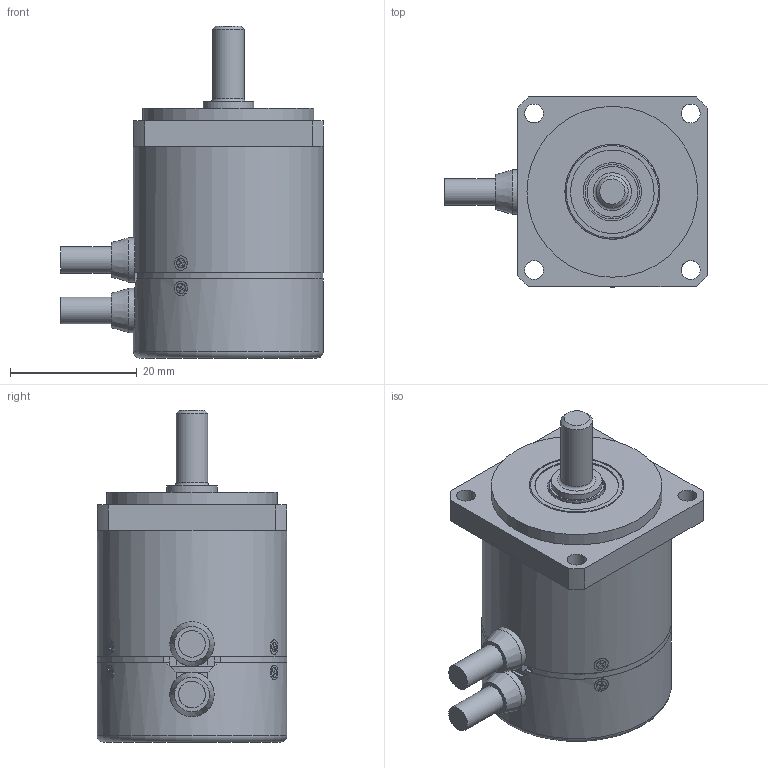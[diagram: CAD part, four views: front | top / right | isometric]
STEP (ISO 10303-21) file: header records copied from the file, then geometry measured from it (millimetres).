
FILE_DESCRIPTION(('STEP AP214'),'1');
FILE_NAME('MDS-3012.stp','2017-10-10T07:15:37',(' '),(' '),'Spatial InterOp 3D',' ',' ');
FILE_SCHEMA(('automotive_design'));
Length unit declared in the file: millimetre
Products named in the file (11): ケーブル; タッピングネジ M1.4x2.2; サラコネジ M1.4x2.5; ｱﾝｷﾞｭﾗﾍﾞｱﾘﾝｸﾞ MTA06-15; ブッシュ; カバー_S; ベース; シャフト_S3012; ケース_3012
Assembly tree (16 placements, depth 2):
  (unnamed)
    ケーブル  x2
    タッピングネジ M1.4x2.2  x3
    サラコネジ M1.4x2.5  x3
    ｱﾝｷﾞｭﾗﾍﾞｱﾘﾝｸﾞ MTA06-15
    ｱﾝｷﾞｭﾗﾍﾞｱﾘﾝｸﾞ MTA06-15
    ブッシュ  x2
    カバー_S
    ベース
    シャフト_S3012
    ケース_3012
Bounding box: 41.49 x 30 x 52.45 mm (x, y, z)
Volume: 11524.7 mm3; surface area: 17421.3 mm2
Topology: 18 solids, 18 shells, 397 faces, 916 edges, 589 vertices
Faces by surface type: plane 213, cylinder 125, cone 39, torus 17, bspline 3
Full cylindrical faces by diameter (mm): 1.1 x15, 1.4 x12, 1.5 x3, 1.6 x3, 2.3 x6, 3 x4, 4.2 x4, 5 x1, 5.4 x1, 6 x4, 7 x2, 8 x1, 8.6 x6, 9.2 x2, 10 x2, 11.8 x2, 12 x1, 12.6 x2, 13 x1, 13.2 x6, 15 x4, 16 x1, 27 x2, 28 x1, 28.2 x1, 28.9 x1, 29 x1, 30 x2
Entity records: 10134 total; most frequent: CARTESIAN_POINT 1957, DIRECTION 1244, ORIENTED_EDGE 1004, AXIS2_PLACEMENT_3D 505, EDGE_CURVE 502, EDGE_LOOP 423, VERTEX_POINT 378, FACE_OUTER_BOUND 344
